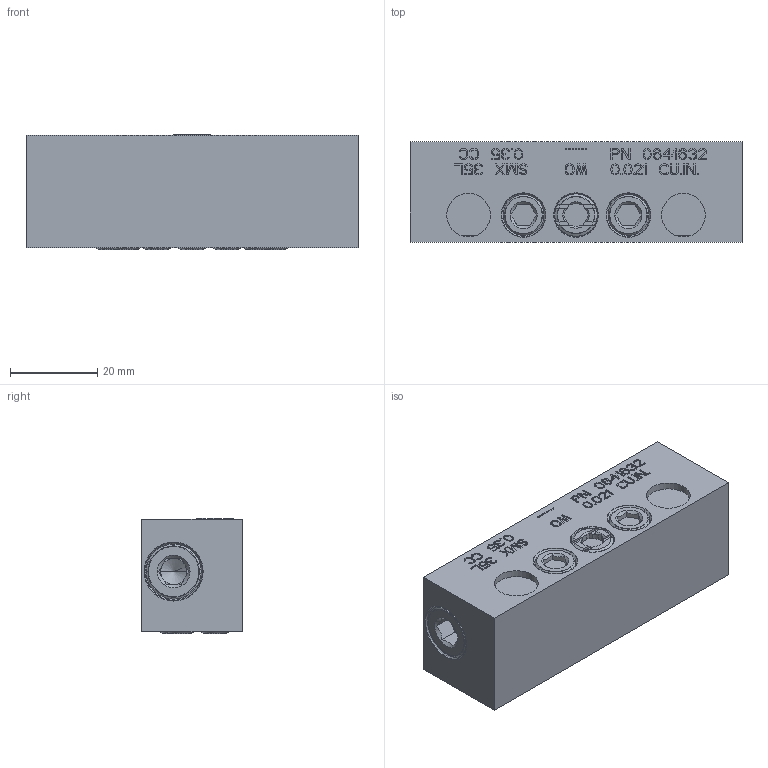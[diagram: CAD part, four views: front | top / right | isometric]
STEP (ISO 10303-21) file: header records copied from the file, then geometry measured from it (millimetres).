
FILE_DESCRIPTION((''),'2;1');
FILE_NAME('0641632_SMX_35L','2023-07-21T11:07:38',('pietro.masciave'),(''),'CREO PARAMETRIC BY PTC INC, 2022281','CREO PARAMETRIC BY PTC INC, 2022281','');
FILE_SCHEMA(('CONFIG_CONTROL_DESIGN'));
Length unit declared in the file: millimetre
Products named in the file (1): 0641632_SMX_35L
Bounding box: 76 x 23 x 26.33 mm (x, y, z)
Volume: 44007.1 mm3; surface area: 12655.4 mm2
Topology: 1 solids, 14 shells, 1354 faces, 3758 edges, 2497 vertices
Faces by surface type: plane 1178, cylinder 110, cone 44, torus 22
Entity records: 43772 total; most frequent: CARTESIAN_POINT 8847, ORIENTED_EDGE 7468, DIRECTION 6749, EDGE_CURVE 3754, VECTOR 3319, LINE 3319, VERTEX_POINT 2497, AXIS2_PLACEMENT_3D 1715
